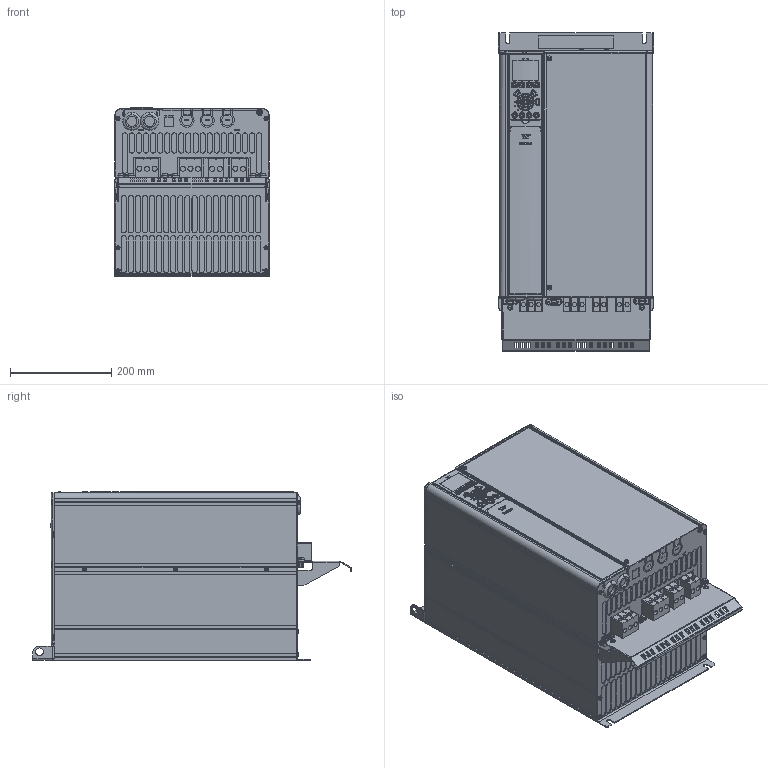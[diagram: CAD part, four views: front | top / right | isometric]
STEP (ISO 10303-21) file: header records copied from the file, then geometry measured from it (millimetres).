
FILE_DESCRIPTION((''),'2;1');
FILE_NAME('DANFOSS-FC100-C3-IP20-121','2007-07-09T',('janardhan.mankala'),('dan Drives A/S'),'PRO/ENGINEER BY PARAMETRIC TECHNOLOGY CORPORATION, 2006200','PRO/ENGINEER BY PARAMETRIC TECHNOLOGY CORPORATION, 2006200','');
FILE_SCHEMA(('CONFIG_CONTROL_DESIGN', 'GEOMETRIC_VALIDATION_PROPERTIES_MIM'));
Products named in the file (1): DANFOSS-FC100-C3-IP20-121
Bounding box: 308 x 630 x 334.01 mm (x, y, z)
Volume: 45421480.9 mm3; surface area: 2011003.8 mm2
Topology: 1 solids, 39 shells, 5754 faces, 15712 edges, 10153 vertices
Faces by surface type: plane 3210, cylinder 1553, bspline 606, torus 140, cone 94, extrusion 80, sphere 71
Entity records: 327766 total; most frequent: CARTESIAN_POINT 113441, ORIENTED_EDGE 31270, DIRECTION 26165, PRESENTATION_STYLE_ASSIGNMENT 18257, STYLED_ITEM 15640, CURVE_STYLE 15635, EDGE_CURVE 15635, VERTEX_POINT 10153
